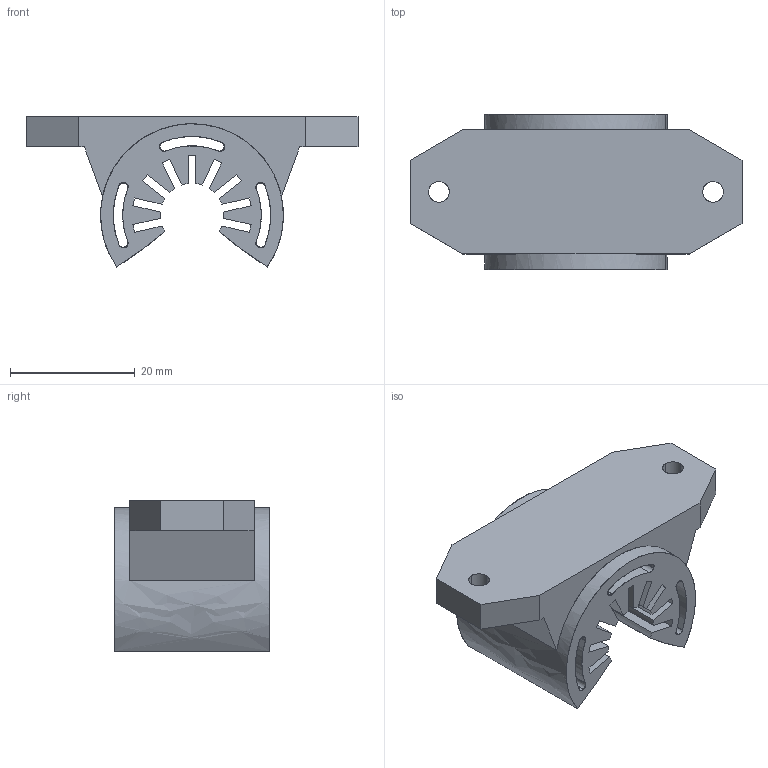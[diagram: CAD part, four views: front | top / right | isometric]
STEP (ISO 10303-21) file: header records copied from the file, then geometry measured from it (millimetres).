
FILE_DESCRIPTION(/* description */ (''),/* implementation_level */ '2;1');
FILE_NAME(/* name */ 'w9_mtm-sli_bearing',/* time_stamp */ '2017-04-18T23:43:04+02:00',/* author */ (''),/* organization */ (''),/* preprocessor_version */ 'ST-DEVELOPER v15',/* originating_system */ '',/* authorisation */ '');
FILE_SCHEMA (('AUTOMOTIVE_DESIGN'));
Length unit declared in the file: millimetre
Products named in the file (1): Document
Bounding box: 53.18 x 24.86 x 24.05 mm (x, y, z)
Volume: 24673.5 mm3; surface area: 16919.2 mm2
Topology: 2 solids, 2 shells, 159 faces, 471 edges, 317 vertices
Faces by surface type: bspline 141, plane 18
Entity records: 5266 total; most frequent: CARTESIAN_POINT 2897, ORIENTED_EDGE 920, EDGE_CURVE 460, VERTEX_POINT 306, EDGE_LOOP 180, ADVANCED_FACE 159, FACE_OUTER_BOUND 159, B_SPLINE_CURVE_WITH_KNOTS 44
